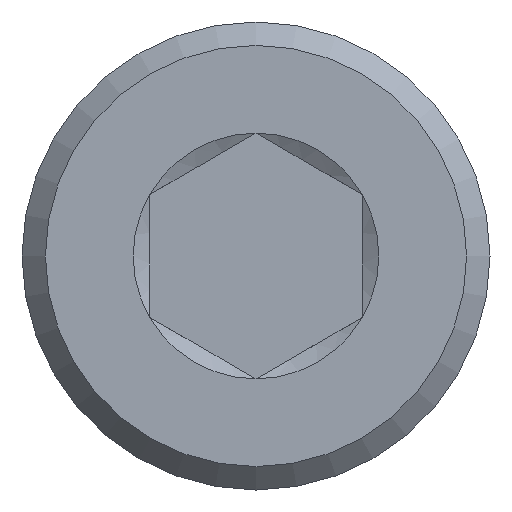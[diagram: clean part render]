
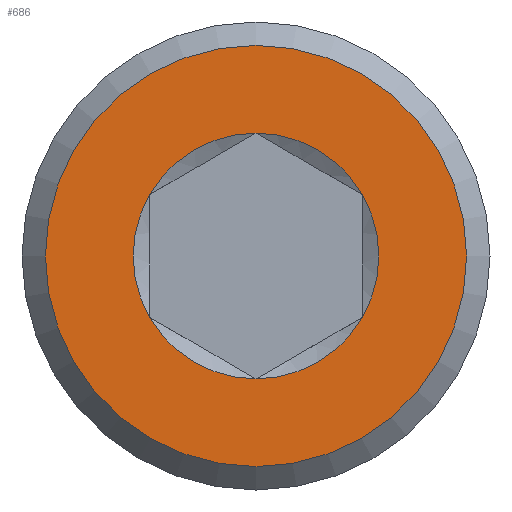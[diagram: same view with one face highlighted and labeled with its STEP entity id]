
A CAD part, front view. The second image highlights one B-rep face of the part: STEP entity #686.
In plain terms, the highlighted planar face has unit normal (0, -1, 0).
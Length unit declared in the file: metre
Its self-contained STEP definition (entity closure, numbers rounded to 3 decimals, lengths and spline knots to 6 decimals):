
#25=CIRCLE('',#718,0.001443);
#26=CIRCLE('',#720,0.001443);
#27=CIRCLE('',#722,0.001443);
#28=CIRCLE('',#724,0.001443);
#29=CIRCLE('',#726,0.001443);
#33=CIRCLE('',#733,0.001443);
#34=CIRCLE('',#734,0.002475);
#173=ORIENTED_EDGE('',*,*,#378,.F.);
#174=ORIENTED_EDGE('',*,*,#386,.F.);
#175=ORIENTED_EDGE('',*,*,#379,.F.);
#176=ORIENTED_EDGE('',*,*,#380,.F.);
#177=ORIENTED_EDGE('',*,*,#381,.F.);
#178=ORIENTED_EDGE('',*,*,#382,.F.);
#179=ORIENTED_EDGE('',*,*,#387,.T.);
#378=EDGE_CURVE('',#476,#477,#25,.T.);
#379=EDGE_CURVE('',#482,#480,#26,.T.);
#380=EDGE_CURVE('',#484,#482,#27,.T.);
#381=EDGE_CURVE('',#486,#484,#28,.T.);
#382=EDGE_CURVE('',#477,#486,#29,.T.);
#386=EDGE_CURVE('',#480,#476,#33,.T.);
#387=EDGE_CURVE('',#490,#490,#34,.T.);
#476=VERTEX_POINT('',#848);
#477=VERTEX_POINT('',#852);
#480=VERTEX_POINT('',#859);
#482=VERTEX_POINT('',#867);
#484=VERTEX_POINT('',#875);
#486=VERTEX_POINT('',#883);
#490=VERTEX_POINT('',#915);
#613=EDGE_LOOP('',(#173,#174,#175,#176,#177,#178));
#614=EDGE_LOOP('',(#179));
#645=FACE_BOUND('',#613,.T.);
#646=FACE_BOUND('',#614,.T.);
#671=PLANE('',#732);
#686=ADVANCED_FACE('',(#645,#646),#671,.T.);
#718=AXIS2_PLACEMENT_3D('',#895,#780,#781);
#720=AXIS2_PLACEMENT_3D('',#897,#784,#785);
#722=AXIS2_PLACEMENT_3D('',#899,#788,#789);
#724=AXIS2_PLACEMENT_3D('',#901,#792,#793);
#726=AXIS2_PLACEMENT_3D('',#903,#796,#797);
#732=AXIS2_PLACEMENT_3D('',#912,#808,#809);
#733=AXIS2_PLACEMENT_3D('',#913,#810,#811);
#734=AXIS2_PLACEMENT_3D('',#914,#812,#813);
#780=DIRECTION('',(0.,-1.,0.));
#781=DIRECTION('',(1.,0.,0.));
#784=DIRECTION('',(0.,-1.,0.));
#785=DIRECTION('',(1.,0.,0.));
#788=DIRECTION('',(0.,-1.,0.));
#789=DIRECTION('',(1.,0.,0.));
#792=DIRECTION('',(0.,-1.,0.));
#793=DIRECTION('',(1.,0.,0.));
#796=DIRECTION('',(0.,-1.,0.));
#797=DIRECTION('',(1.,0.,0.));
#808=DIRECTION('',(0.,-1.,0.));
#809=DIRECTION('',(1.,0.,0.));
#810=DIRECTION('',(0.,-1.,0.));
#811=DIRECTION('',(1.,0.,0.));
#812=DIRECTION('',(0.,-1.,0.));
#813=DIRECTION('',(1.,0.,0.));
#848=CARTESIAN_POINT('',(-0.01425,-0.012,0.016222));
#852=CARTESIAN_POINT('',(-0.0155,-0.012,0.016943));
#859=CARTESIAN_POINT('',(-0.01425,-0.012,0.014778));
#867=CARTESIAN_POINT('',(-0.0155,-0.012,0.014057));
#875=CARTESIAN_POINT('',(-0.01675,-0.012,0.014778));
#883=CARTESIAN_POINT('',(-0.01675,-0.012,0.016222));
#895=CARTESIAN_POINT('',(-0.0155,-0.012,0.0155));
#897=CARTESIAN_POINT('',(-0.0155,-0.012,0.0155));
#899=CARTESIAN_POINT('',(-0.0155,-0.012,0.0155));
#901=CARTESIAN_POINT('',(-0.0155,-0.012,0.0155));
#903=CARTESIAN_POINT('',(-0.0155,-0.012,0.0155));
#912=CARTESIAN_POINT('',(-0.0155,-0.012,0.01825));
#913=CARTESIAN_POINT('',(-0.0155,-0.012,0.0155));
#914=CARTESIAN_POINT('',(-0.0155,-0.012,0.0155));
#915=CARTESIAN_POINT('',(-0.013025,-0.012,0.0155));
